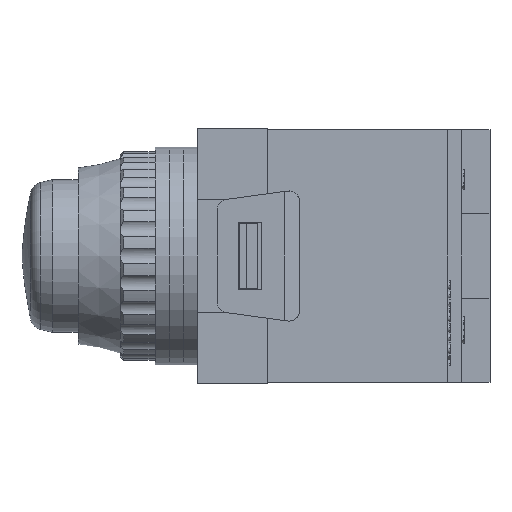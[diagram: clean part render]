
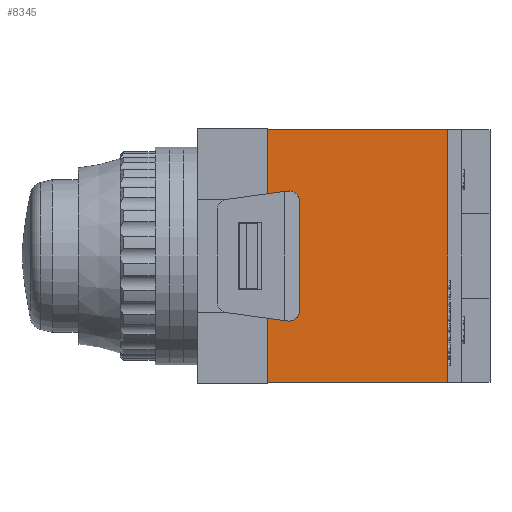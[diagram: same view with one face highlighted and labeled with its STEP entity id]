
A CAD part, left-side view. The second image highlights one B-rep face of the part: STEP entity #8345.
In plain terms, the highlighted planar face has unit normal (-1, 0, 0).
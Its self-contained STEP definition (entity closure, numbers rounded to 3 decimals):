
#309=CIRCLE('',#8718,1.5);
#310=CIRCLE('',#8719,1.5);
#746=FACE_OUTER_BOUND('',#1234,.T.);
#1234=EDGE_LOOP('',(#6873,#6874,#6875,#6876,#6877,#6878,#6879,#6880,#6881,
#6882));
#1544=LINE('',#11249,#2309);
#1988=LINE('',#13957,#2753);
#1996=LINE('',#13976,#2761);
#1997=LINE('',#13978,#2762);
#1998=LINE('',#13980,#2763);
#1999=LINE('',#13984,#2764);
#2000=LINE('',#13988,#2765);
#2001=LINE('',#13989,#2766);
#2309=VECTOR('',#9282,25.8);
#2753=VECTOR('',#9988,36.);
#2761=VECTOR('',#10012,25.8);
#2762=VECTOR('',#10013,9.129);
#2763=VECTOR('',#10014,2.924);
#2764=VECTOR('',#10017,15.562);
#2765=VECTOR('',#10020,2.924);
#2766=VECTOR('',#10021,9.129);
#3345=VERTEX_POINT('',#11246);
#3346=VERTEX_POINT('',#11248);
#3782=VERTEX_POINT('',#13954);
#3786=VERTEX_POINT('',#13975);
#3787=VERTEX_POINT('',#13977);
#3788=VERTEX_POINT('',#13979);
#3789=VERTEX_POINT('',#13981);
#3790=VERTEX_POINT('',#13983);
#3791=VERTEX_POINT('',#13985);
#3792=VERTEX_POINT('',#13987);
#4196=EDGE_CURVE('',#3345,#3346,#1544,.T.);
#4852=EDGE_CURVE('',#3345,#3782,#1988,.T.);
#4860=EDGE_CURVE('',#3782,#3786,#1996,.T.);
#4861=EDGE_CURVE('',#3787,#3786,#1997,.T.);
#4862=EDGE_CURVE('',#3788,#3787,#1998,.T.);
#4863=EDGE_CURVE('',#3789,#3788,#309,.F.);
#4864=EDGE_CURVE('',#3789,#3790,#1999,.T.);
#4865=EDGE_CURVE('',#3791,#3790,#310,.F.);
#4866=EDGE_CURVE('',#3792,#3791,#2000,.T.);
#4867=EDGE_CURVE('',#3346,#3792,#2001,.T.);
#6873=ORIENTED_EDGE('',*,*,#4852,.T.);
#6874=ORIENTED_EDGE('',*,*,#4860,.T.);
#6875=ORIENTED_EDGE('',*,*,#4861,.F.);
#6876=ORIENTED_EDGE('',*,*,#4862,.F.);
#6877=ORIENTED_EDGE('',*,*,#4863,.F.);
#6878=ORIENTED_EDGE('',*,*,#4864,.T.);
#6879=ORIENTED_EDGE('',*,*,#4865,.F.);
#6880=ORIENTED_EDGE('',*,*,#4866,.F.);
#6881=ORIENTED_EDGE('',*,*,#4867,.F.);
#6882=ORIENTED_EDGE('',*,*,#4196,.F.);
#7831=PLANE('',#8717);
#8345=ADVANCED_FACE('',(#746),#7831,.T.);
#8717=AXIS2_PLACEMENT_3D('',#13974,#10010,#10011);
#8718=AXIS2_PLACEMENT_3D('',#13982,#10015,#10016);
#8719=AXIS2_PLACEMENT_3D('',#13986,#10018,#10019);
#9282=DIRECTION('',(0.,1.,0.));
#9988=DIRECTION('',(0.,0.,1.));
#10010=DIRECTION('center_axis',(-1.,0.,0.));
#10011=DIRECTION('ref_axis',(0.,0.,1.));
#10012=DIRECTION('',(0.,1.,0.));
#10013=DIRECTION('',(0.,0.,1.));
#10014=DIRECTION('',(0.,0.991,-0.135));
#10015=DIRECTION('center_axis',(1.,0.,0.));
#10016=DIRECTION('ref_axis',(0.,-0.657,0.753));
#10017=DIRECTION('',(0.,0.,-1.));
#10018=DIRECTION('center_axis',(1.,0.,0.));
#10019=DIRECTION('ref_axis',(0.,-0.657,-0.753));
#10020=DIRECTION('',(0.,-0.991,-0.135));
#10021=DIRECTION('',(0.,0.,1.));
#11246=CARTESIAN_POINT('',(-14.5,6.,-18.));
#11248=CARTESIAN_POINT('',(-14.5,31.8,-18.));
#11249=CARTESIAN_POINT('',(-14.5,0.,-18.));
#13954=CARTESIAN_POINT('',(-14.5,6.,18.));
#13957=CARTESIAN_POINT('',(-14.5,6.,-18.));
#13974=CARTESIAN_POINT('Origin',(-14.5,0.,-18.));
#13975=CARTESIAN_POINT('',(-14.5,31.8,18.));
#13976=CARTESIAN_POINT('',(-14.5,0.,18.));
#13977=CARTESIAN_POINT('',(-14.5,31.8,8.871));
#13978=CARTESIAN_POINT('',(-14.5,31.8,-18.));
#13979=CARTESIAN_POINT('',(-14.5,28.903,9.267));
#13980=CARTESIAN_POINT('',(-14.5,36.559,8.22));
#13981=CARTESIAN_POINT('',(-14.5,27.2,7.781));
#13982=CARTESIAN_POINT('Origin',(-14.5,28.7,7.781));
#13983=CARTESIAN_POINT('',(-14.5,27.2,-7.781));
#13984=CARTESIAN_POINT('',(-14.5,27.2,-4.25));
#13985=CARTESIAN_POINT('',(-14.5,28.903,-9.267));
#13986=CARTESIAN_POINT('Origin',(-14.5,28.7,-7.781));
#13987=CARTESIAN_POINT('',(-14.5,31.8,-8.871));
#13988=CARTESIAN_POINT('',(-14.5,30.709,-9.02));
#13989=CARTESIAN_POINT('',(-14.5,31.8,-18.));
